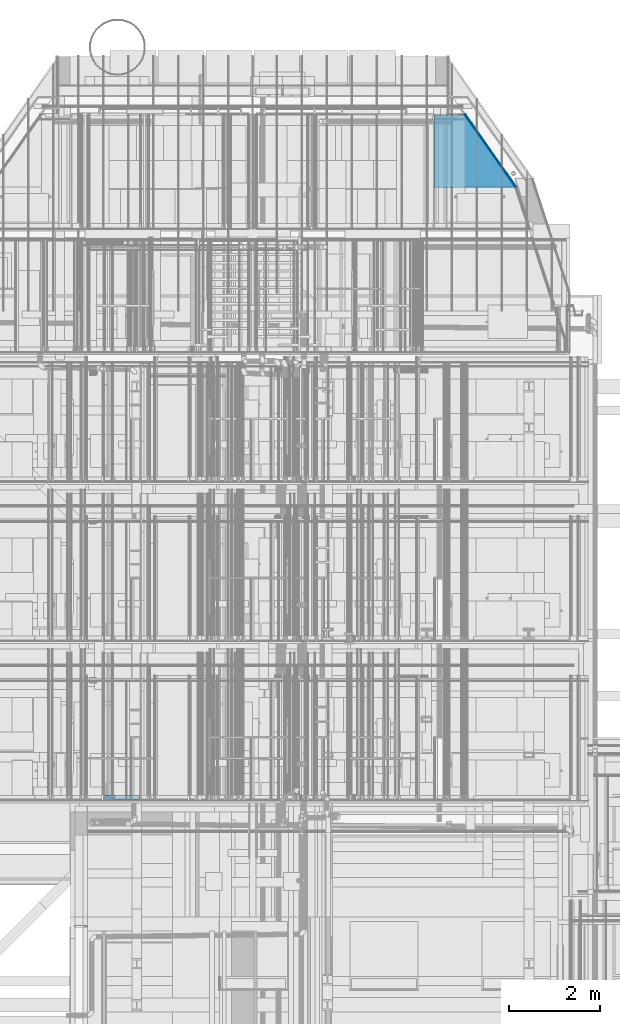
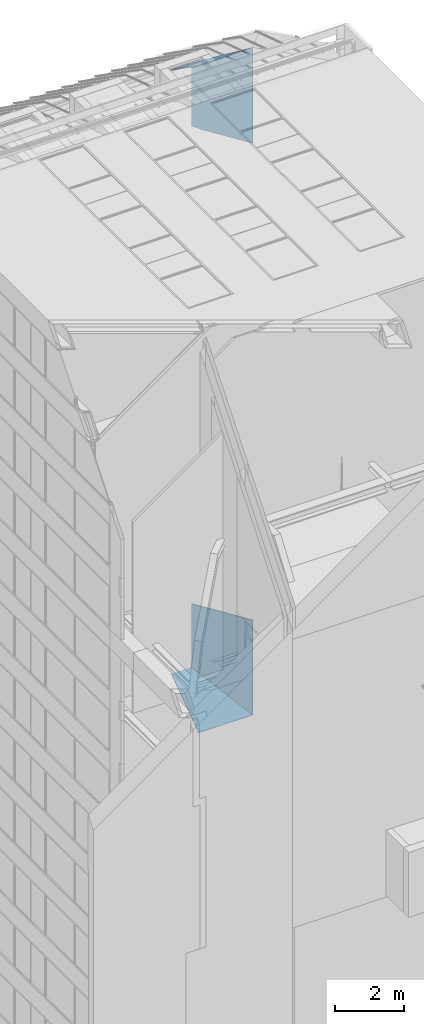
# One storey, part 28 of 583: 10 walls, 2 openings.
"""IFC2X3 building model written with IfcOpenShell, lengths in metres."""

from ifc_helpers import new_model, entity, si_unit, converted_unit, derived_unit, money_unit, direction, frame, frame_2d, origin_with_axes, place, context, subcontext, project, spatial, polyline, rectangle, outline, extrude, clip, halfspace, material, type_object, element, save


model = new_model("IFC2X3")

# Units and contexts
model_context = context("Model", 3, precision=1e-05, world=origin_with_axes(), true_north=direction((0.0, 1.0)))
body_context = subcontext(model_context, "Body", "Model", "MODEL_VIEW", scale=1.0)
ifc_project = project(units=[si_unit("LENGTHUNIT", "METRE"), si_unit("AREAUNIT", "SQUARE_METRE"), si_unit("VOLUMEUNIT", "CUBIC_METRE"), si_unit("ABSORBEDDOSEUNIT", "GRAY"), si_unit("AMOUNTOFSUBSTANCEUNIT", "MOLE"), si_unit("DOSEEQUIVALENTUNIT", "SIEVERT"), si_unit("ELECTRICCAPACITANCEUNIT", "FARAD"), si_unit("ELECTRICCHARGEUNIT", "COULOMB"), si_unit("ELECTRICCONDUCTANCEUNIT", "SIEMENS"), si_unit("ELECTRICCURRENTUNIT", "AMPERE"), si_unit("ELECTRICRESISTANCEUNIT", "OHM"), si_unit("ELECTRICVOLTAGEUNIT", "VOLT"), si_unit("ENERGYUNIT", "JOULE"), si_unit("FORCEUNIT", "NEWTON"), si_unit("FREQUENCYUNIT", "HERTZ"), si_unit("ILLUMINANCEUNIT", "LUX"), si_unit("INDUCTANCEUNIT", "HENRY"), si_unit("LUMINOUSFLUXUNIT", "LUMEN"), si_unit("LUMINOUSINTENSITYUNIT", "CANDELA"), si_unit("MAGNETICFLUXDENSITYUNIT", "TESLA"), si_unit("MAGNETICFLUXUNIT", "WEBER"), si_unit("MASSUNIT", "GRAM"), converted_unit("PLANEANGLEUNIT", "degree", entity("IfcReal", 0.0174532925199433), si_unit("PLANEANGLEUNIT", "RADIAN"), dimensions=[0, 0, 0, 0, 0, 0, 0]), si_unit("POWERUNIT", "WATT"), si_unit("PRESSUREUNIT", "PASCAL"), si_unit("RADIOACTIVITYUNIT", "BECQUEREL"), si_unit("SOLIDANGLEUNIT", "STERADIAN"), si_unit("THERMODYNAMICTEMPERATUREUNIT", "KELVIN"), si_unit("TIMEUNIT", "SECOND"), derived_unit("ACCELERATIONUNIT", [(si_unit("LENGTHUNIT", "METRE"), 1), (si_unit("TIMEUNIT", "SECOND"), -2)]), derived_unit("ANGULARVELOCITYUNIT", [(converted_unit("PLANEANGLEUNIT", "degree", entity("IfcReal", 0.0174532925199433), si_unit("PLANEANGLEUNIT", "RADIAN"), dimensions=[0, 0, 0, 0, 0, 0, 0]), 1), (si_unit("TIMEUNIT", "SECOND"), -1)]), derived_unit("CURVATUREUNIT", [(converted_unit("PLANEANGLEUNIT", "degree", entity("IfcReal", 0.0174532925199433), si_unit("PLANEANGLEUNIT", "RADIAN"), dimensions=[0, 0, 0, 0, 0, 0, 0]), 1), (si_unit("LENGTHUNIT", "METRE"), -1)]), derived_unit("DYNAMICVISCOSITYUNIT", [(si_unit("PRESSUREUNIT", "PASCAL"), 1), (si_unit("TIMEUNIT", "SECOND"), 1)]), derived_unit("HEATFLUXDENSITYUNIT", [(si_unit("POWERUNIT", "WATT"), 1), (si_unit("LENGTHUNIT", "METRE"), -2)]), derived_unit("HEATINGVALUEUNIT", [(si_unit("ENERGYUNIT", "JOULE"), 1), (si_unit("MASSUNIT", "GRAM"), -1)]), derived_unit("INTEGERCOUNTRATEUNIT", [(si_unit("TIMEUNIT", "SECOND"), -1)]), derived_unit("IONCONCENTRATIONUNIT", [(si_unit("MASSUNIT", "GRAM"), 1), (si_unit("VOLUMEUNIT", "CUBIC_METRE"), -1)]), derived_unit("ISOTHERMALMOISTURECAPACITYUNIT", [(si_unit("VOLUMEUNIT", "CUBIC_METRE"), 1), (si_unit("MASSUNIT", "GRAM"), -1)]), derived_unit("KINEMATICVISCOSITYUNIT", [(si_unit("AREAUNIT", "SQUARE_METRE"), 1), (si_unit("TIMEUNIT", "SECOND"), -1)]), derived_unit("LINEARFORCEUNIT", [(si_unit("FORCEUNIT", "NEWTON"), 1), (si_unit("LENGTHUNIT", "METRE"), -1)]), derived_unit("LINEARMOMENTUNIT", [(si_unit("FORCEUNIT", "NEWTON"), 1), (si_unit("LENGTHUNIT", "METRE"), -1)]), derived_unit("LINEARSTIFFNESSUNIT", [(si_unit("FORCEUNIT", "NEWTON"), 1), (si_unit("LENGTHUNIT", "METRE"), -1)]), derived_unit("LINEARVELOCITYUNIT", [(si_unit("LENGTHUNIT", "METRE"), 1), (si_unit("TIMEUNIT", "SECOND"), -1)]), derived_unit("LUMINOUSINTENSITYDISTRIBUTIONUNIT", [(si_unit("LUMINOUSINTENSITYUNIT", "CANDELA"), 1), (si_unit("LUMINOUSFLUXUNIT", "LUMEN"), -1)]), derived_unit("MASSDENSITYUNIT", [(si_unit("MASSUNIT", "GRAM"), 1), (si_unit("VOLUMEUNIT", "CUBIC_METRE"), -1)]), derived_unit("MASSFLOWRATEUNIT", [(si_unit("MASSUNIT", "GRAM"), 1), (si_unit("TIMEUNIT", "SECOND"), -1)]), derived_unit("MASSPERLENGTHUNIT", [(si_unit("MASSUNIT", "GRAM"), 1), (si_unit("LENGTHUNIT", "METRE"), -1)]), derived_unit("MODULUSOFELASTICITYUNIT", [(si_unit("FORCEUNIT", "NEWTON"), 1), (si_unit("AREAUNIT", "SQUARE_METRE"), -1)]), derived_unit("MODULUSOFLINEARSUBGRADEREACTIONUNIT", [(si_unit("FORCEUNIT", "NEWTON"), 1), (si_unit("LENGTHUNIT", "METRE"), -2)]), derived_unit("MODULUSOFROTATIONALSUBGRADEREACTIONUNIT", [(si_unit("FORCEUNIT", "NEWTON"), 1), (si_unit("LENGTHUNIT", "METRE"), 1)]), derived_unit("MODULUSOFSUBGRADEREACTIONUNIT", [(si_unit("FORCEUNIT", "NEWTON"), 1), (si_unit("VOLUMEUNIT", "CUBIC_METRE"), -1)]), derived_unit("MOISTUREDIFFUSIVITYUNIT", [(si_unit("VOLUMEUNIT", "CUBIC_METRE"), 1), (si_unit("TIMEUNIT", "SECOND"), -1)]), derived_unit("MOLECULARWEIGHTUNIT", [(si_unit("MASSUNIT", "GRAM"), 1), (si_unit("AMOUNTOFSUBSTANCEUNIT", "MOLE"), -1)]), derived_unit("PLANARFORCEUNIT", [(si_unit("FORCEUNIT", "NEWTON"), 1), (si_unit("LENGTHUNIT", "METRE"), -2)]), derived_unit("ROTATIONALFREQUENCYUNIT", [(si_unit("TIMEUNIT", "SECOND"), -1)]), derived_unit("ROTATIONALMASSUNIT", [(si_unit("MASSUNIT", "GRAM"), 1), (si_unit("LENGTHUNIT", "METRE"), 2)]), derived_unit("ROTATIONALSTIFFNESSUNIT", [(si_unit("FORCEUNIT", "NEWTON"), 1), (si_unit("LENGTHUNIT", "METRE"), 1), (converted_unit("PLANEANGLEUNIT", "degree", entity("IfcReal", 0.0174532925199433), si_unit("PLANEANGLEUNIT", "RADIAN"), dimensions=[0, 0, 0, 0, 0, 0, 0]), -1)]), derived_unit("SECTIONAREAINTEGRALUNIT", [(si_unit("LENGTHUNIT", "METRE"), 5)]), derived_unit("SECTIONMODULUSUNIT", [(si_unit("LENGTHUNIT", "METRE"), 3)]), derived_unit("SHEARMODULUSUNIT", [(si_unit("FORCEUNIT", "NEWTON"), 1), (si_unit("AREAUNIT", "SQUARE_METRE"), -1)]), derived_unit("SOUNDPOWERUNIT", [(si_unit("ENERGYUNIT", "JOULE"), 1), (si_unit("TIMEUNIT", "SECOND"), -1)]), derived_unit("SPECIFICHEATCAPACITYUNIT", [(si_unit("FORCEUNIT", "NEWTON"), 1), (si_unit("MASSUNIT", "GRAM"), -1), (si_unit("THERMODYNAMICTEMPERATUREUNIT", "KELVIN"), -1)]), derived_unit("TEMPERATUREGRADIENTUNIT", [(si_unit("THERMODYNAMICTEMPERATUREUNIT", "KELVIN"), 1), (si_unit("LENGTHUNIT", "METRE"), -1)]), derived_unit("THERMALADMITTANCEUNIT", [(si_unit("POWERUNIT", "WATT"), 1), (si_unit("AREAUNIT", "SQUARE_METRE"), -1), (si_unit("THERMODYNAMICTEMPERATUREUNIT", "KELVIN"), -1)]), derived_unit("THERMALCONDUCTANCEUNIT", [(si_unit("POWERUNIT", "WATT"), 1), (si_unit("LENGTHUNIT", "METRE"), -1), (si_unit("THERMODYNAMICTEMPERATUREUNIT", "KELVIN"), -1)]), derived_unit("THERMALEXPANSIONCOEFFICIENTUNIT", [(si_unit("THERMODYNAMICTEMPERATUREUNIT", "KELVIN"), -1)]), derived_unit("THERMALRESISTANCEUNIT", [(si_unit("AREAUNIT", "SQUARE_METRE"), 1), (si_unit("POWERUNIT", "WATT"), -1)]), derived_unit("THERMALTRANSMITTANCEUNIT", [(si_unit("POWERUNIT", "WATT"), 1), (si_unit("AREAUNIT", "SQUARE_METRE"), -1), (si_unit("THERMODYNAMICTEMPERATUREUNIT", "KELVIN"), -1)]), derived_unit("TORQUEUNIT", [(si_unit("FORCEUNIT", "NEWTON"), 1), (si_unit("LENGTHUNIT", "METRE"), 1)]), derived_unit("VAPORPERMEABILITYUNIT", [(si_unit("MASSUNIT", "GRAM"), 1), (si_unit("TIMEUNIT", "SECOND"), -1)]), derived_unit("VOLUMETRICFLOWRATEUNIT", [(si_unit("VOLUMEUNIT", "CUBIC_METRE"), 1), (si_unit("TIMEUNIT", "SECOND"), -1)]), derived_unit("WARPINGCONSTANTUNIT", [(si_unit("LENGTHUNIT", "METRE"), 6)]), derived_unit("WARPINGMOMENTUNIT", [(si_unit("FORCEUNIT", "NEWTON"), 1), (si_unit("LENGTHUNIT", "METRE"), 2)]), money_unit("GBP")], contexts=[model_context])

# Site, building, storey
site_placement = place(None, origin_with_axes())
site = spatial("IfcSite", under=ifc_project, at=site_placement, Name="Site", CompositionType="ELEMENT")
building_placement = place(site_placement, origin_with_axes())
building = spatial("IfcBuilding", under=site, at=building_placement, Name="Building01", CompositionType="ELEMENT")
storey_placement = place(building_placement, frame((0.0, 0.0, 20.78), z_axis=(0.0, 0.0, 1.0), x_axis=(1.0, 0.0, 0.0)))
storey = spatial("IfcBuildingStorey", under=building, at=storey_placement, Name="RL", CompositionType="ELEMENT", Elevation=20.78)

# Walls
ifc_material_1 = material(Name="A_BSUK_WallsInternal")
wall_type_1 = type_object("IfcWallType", Name="A-Walls-Internal", PredefinedType="NOTDEFINED")
wall_1_placement = place(storey_placement, frame((13.219843, 18.588254, -19.084043), z_axis=(0.0, 0.81915311, 0.57357491), x_axis=(-1.0, 0.0, 0.0)))
element("IfcWall", 1, at=wall_1_placement, inside=storey, type_object=wall_type_1, material=ifc_material_1, Name="7C", ObjectType="A-Walls-Internal", context=body_context, shape_type="Clipping", body=[
    clip(extrude(outline(polyline([(0.0, 0.0), (-0.012287, -0.015), (1.80398, -0.015), (1.80398, 0.0), (0.0, 0.0)])), origin_with_axes(), (0.0, 0.0, 1.0), 1.943), halfspace(frame((0.0, 0.0, 0.0), z_axis=(0.70710678, -0.57922872, -0.40557871), x_axis=(0.63368777, 0.77358892, 0.0)), True)),
])
wall_2_placement = place(storey_placement, frame((13.219843, 18.588254, -15.719976), z_axis=(-0.57357491, 0.81915311, 0.0), x_axis=(0.0, 0.0, -1.0)))
element("IfcWall", 2, at=wall_2_placement, inside=storey, type_object=wall_type_1, material=ifc_material_1, Name="7C", ObjectType="A-Walls-Internal", context=body_context, shape_type="Clipping", body=[
    clip(extrude(outline(polyline([(3.364068, 0.0), (0.0, 0.0), (0.0, -0.015), (3.376355, -0.015), (3.364068, 0.0)])), origin_with_axes(), (0.0, 0.0, 1.0), 1.943), halfspace(frame((1.682034, 1.377843, 0.964772), z_axis=(-0.70710678, -0.57922872, -0.40557871), x_axis=(0.63368777, -0.77358892, 0.0)), True)),
])
wall_3_placement = place(storey_placement, frame((13.207556, 18.579651, -15.719976), z_axis=(-0.57357491, 0.81915311, 0.0), x_axis=(0.0, 0.0, -1.0)))
element("IfcWall", 3, at=wall_3_placement, inside=storey, type_object=wall_type_1, material=ifc_material_1, Name="7C", ObjectType="A-Walls-Internal", context=body_context, shape_type="Clipping", body=[
    clip(extrude(outline(polyline([(3.35178, 0.0), (0.0, 0.0), (0.0, -0.015), (3.364068, -0.015), (3.35178, 0.0)])), origin_with_axes(), (0.0, 0.0, 1.0), 1.943036), halfspace(frame((1.67589, 1.372811, 0.961249), z_axis=(-0.70710678, -0.57922872, -0.40557871), x_axis=(0.63368777, -0.77358892, 0.0)), True)),
])
wall_4_placement = place(storey_placement, frame((13.207556, 18.579651, -19.071756), z_axis=(0.0, 0.81915311, 0.57357491), x_axis=(-1.0, 0.0, 0.0)))
element("IfcWall", 4, at=wall_4_placement, inside=storey, type_object=wall_type_1, material=ifc_material_1, Name="7C", ObjectType="A-Walls-Internal", context=body_context, shape_type="Clipping", body=[
    clip(extrude(outline(polyline([(0.0, 0.0), (-0.012287, -0.015), (1.791693, -0.015), (1.791693, 0.0), (0.0, 0.0)])), origin_with_axes(), (0.0, 0.0, 1.0), 1.943036), halfspace(frame((0.0, 0.0, 0.0), z_axis=(0.70710678, -0.57922872, -0.40557871), x_axis=(0.63368777, 0.77358892, 0.0)), True)),
])
wall_5_placement = place(storey_placement, frame((13.219843, 18.588254, 4.504043), z_axis=(0.0, 0.81915311, -0.57357491), x_axis=(1.0, 0.0, 0.0)))
element("IfcWall", 5, at=wall_5_placement, inside=storey, type_object=wall_type_1, material=ifc_material_1, Name="7C", ObjectType="A-Walls-Internal", context=body_context, shape_type="Clipping", body=[
    clip(extrude(outline(polyline([(0.012287, -0.015), (0.0, 0.0), (-1.80398, 0.0), (-1.80398, -0.015), (0.012287, -0.015)])), origin_with_axes(), (0.0, 0.0, 1.0), 1.943), halfspace(frame((0.0, 0.0, 0.0), z_axis=(-0.70710678, -0.57922872, -0.40557871), x_axis=(0.63368777, -0.77358892, 0.0)), True)),
])

# Wall, opening
wall_6_placement = place(storey_placement, frame((13.219843, 18.588254, 1.139976), z_axis=(-0.57357491, 0.81915311, 0.0), x_axis=(0.0, 0.0, 1.0)))
wall_6 = element("IfcWall", 6, at=wall_6_placement, inside=storey, type_object=wall_type_1, material=ifc_material_1, Name="7C", ObjectType="A-Walls-Internal", context=body_context, shape_type="Clipping", body=[
    clip(extrude(outline(polyline([(3.376355, 0.015), (0.0, 0.015), (0.0, 0.0), (3.364068, 0.0), (3.376355, 0.015)])), origin_with_axes(), (0.0, 0.0, 1.0), 1.943), halfspace(frame((1.682034, -1.377843, 0.964772), z_axis=(-0.70710678, 0.57922872, -0.40557871), x_axis=(-0.63368777, -0.77358892, 0.0)), True)),
])
opening_1_placement = place(wall_6_placement, frame((-2.08, 0.015, 1.712402), z_axis=(0.0, 0.0, 1.0), x_axis=(1.0, 0.0, 0.0)))
element("IfcOpeningElement", 7, at=opening_1_placement, cuts=wall_6, Name="Opening", ObjectType="Opening", context=body_context, shape_type="SweptSolid", body=[
    extrude(rectangle(XDim=2.1, YDim=0.958898, at=frame_2d((1.05, 0.479449), x_axis=(-1.0, 0.0))), frame((0.0, 0.0, 0.0), z_axis=(0.0, -1.0, 0.0), x_axis=(1.0, 0.0, 0.0)), (0.0, -0.81915311, 0.57357491), 0.026152),
])

wall_7_placement = place(storey_placement, frame((13.207556, 18.579651, 1.139976), z_axis=(-0.57357491, 0.81915311, 0.0), x_axis=(0.0, 0.0, 1.0)))
wall_7 = element("IfcWall", 8, at=wall_7_placement, inside=storey, type_object=wall_type_1, material=ifc_material_1, Name="7C", ObjectType="A-Walls-Internal", context=body_context, shape_type="Clipping", body=[
    clip(extrude(outline(polyline([(3.364068, 0.015), (0.0, 0.015), (0.0, 0.0), (3.35178, 0.0), (3.364068, 0.015)])), origin_with_axes(), (0.0, 0.0, 1.0), 1.943036), halfspace(frame((1.67589, -1.372811, 0.961249), z_axis=(-0.70710678, 0.57922872, -0.40557871), x_axis=(-0.63368777, -0.77358892, 0.0)), True)),
])
opening_2_placement = place(wall_7_placement, frame((-2.08, 0.015, 1.69098), z_axis=(0.0, 0.0, 1.0), x_axis=(1.0, 0.0, 0.0)))
element("IfcOpeningElement", 9, at=opening_2_placement, cuts=wall_7, Name="Opening", ObjectType="Opening", context=body_context, shape_type="SweptSolid", body=[
    extrude(rectangle(XDim=2.1, YDim=0.958898, at=frame_2d((1.05, 0.479449), x_axis=(-1.0, 0.0))), frame((0.0, 0.0, 0.0), z_axis=(0.0, -1.0, 0.0), x_axis=(1.0, 0.0, 0.0)), (0.0, -0.81915311, 0.57357491), 0.026152),
])

# Walls
wall_8_placement = place(storey_placement, frame((13.207556, 18.579651, 4.491756), z_axis=(0.0, 0.81915311, -0.57357491), x_axis=(1.0, 0.0, 0.0)))
element("IfcWall", 10, at=wall_8_placement, inside=storey, type_object=wall_type_1, material=ifc_material_1, Name="7C", ObjectType="A-Walls-Internal", context=body_context, shape_type="Clipping", body=[
    clip(extrude(outline(polyline([(0.012287, -0.015), (0.0, 0.0), (-1.791693, 0.0), (-1.791693, -0.015), (0.012287, -0.015)])), origin_with_axes(), (0.0, 0.0, 1.0), 1.943036), halfspace(frame((0.0, 0.0, 0.0), z_axis=(-0.70710678, -0.57922872, -0.40557871), x_axis=(0.63368777, -0.77358892, 0.0)), True)),
])
ifc_material_2 = material(Name="A_BSUK_Walls_Timber")
wall_type_2 = type_object("IfcWallType", Name="default", PredefinedType="NOTDEFINED")
wall_9_placement = place(storey_placement, frame((4.965, 5.165, -6.17), z_axis=(0.0, 1.0, 0.0), x_axis=(-1.0, 0.0, 0.0)))
element("IfcWall", 11, at=wall_9_placement, inside=storey, type_object=wall_type_2, material=ifc_material_2, Name="default", ObjectType="default", context=body_context, shape_type="SweptSolid", body=[
    extrude(outline(polyline([(0.575572, 0.015), (-0.015, 0.015), (0.0, 0.0), (0.560572, 0.0), (0.575572, 0.015)])), origin_with_axes(), (0.0, 0.0, 1.0), 0.1),
])
wall_10_placement = place(storey_placement, frame((4.98, 5.165, -5.93), z_axis=(0.0, 1.0, 0.0), x_axis=(-1.0, 0.0, 0.0)))
element("IfcWall", 12, at=wall_10_placement, inside=storey, type_object=wall_type_2, material=ifc_material_2, Name="default", ObjectType="default", context=body_context, shape_type="SweptSolid", body=[
    extrude(rectangle(XDim=0.815572, YDim=0.015, at=frame_2d((0.407786, 0.0075), x_axis=(-1.0, 0.0))), origin_with_axes(), (0.0, 0.0, 1.0), 0.1),
])

save(model, "model.ifc")
